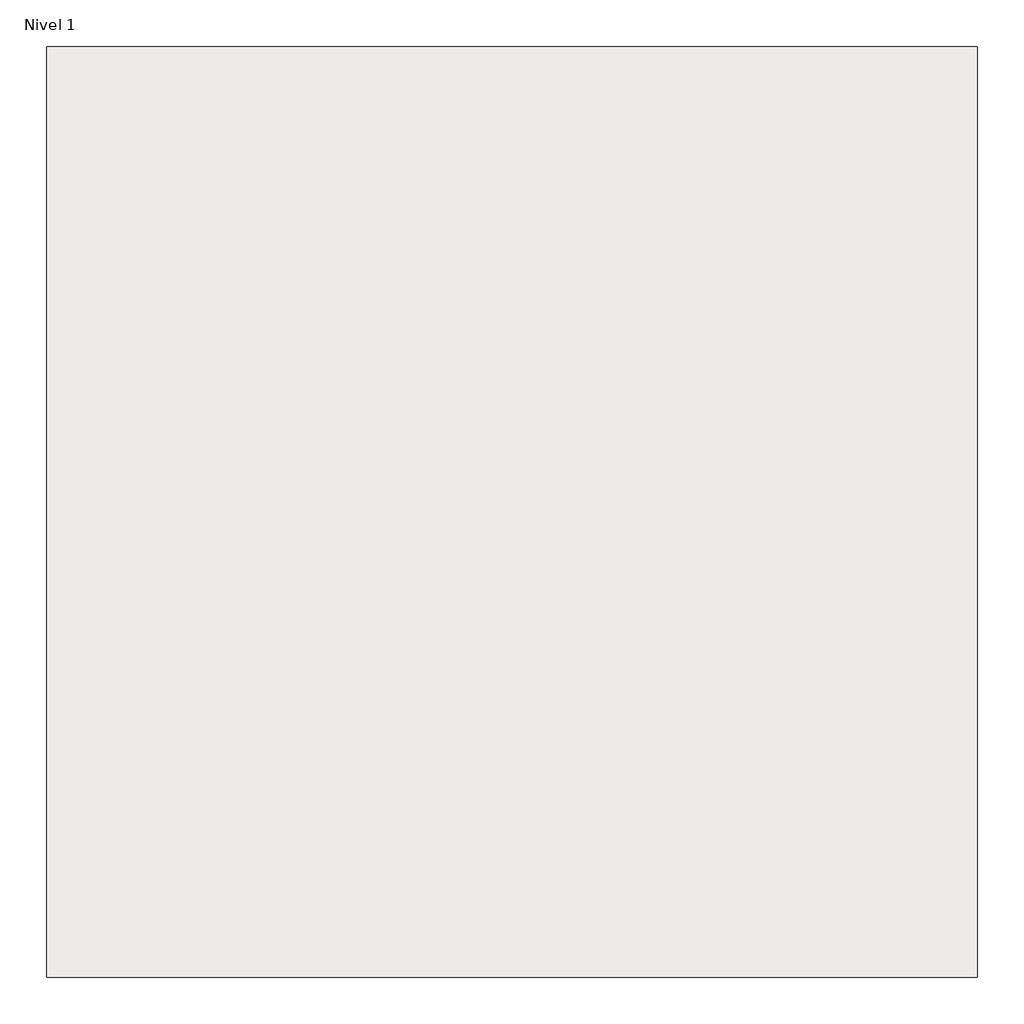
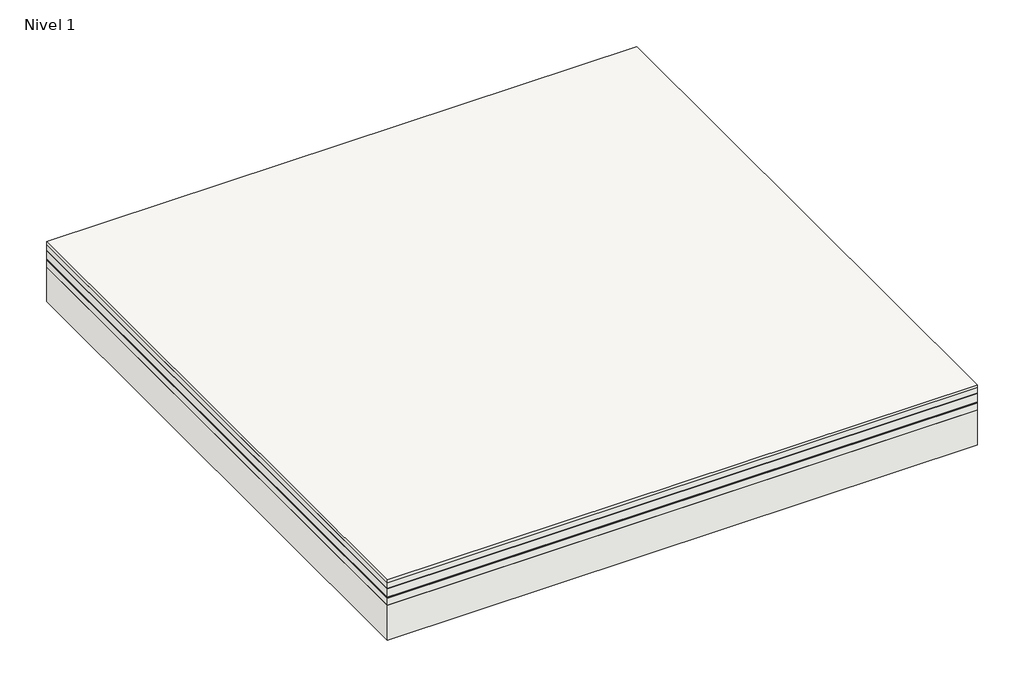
# One storey: 1 roof.
"""IFC4 building model written with IfcOpenShell, lengths in millimetres."""

import ifcopenshell
import ifcopenshell.guid

model = None  # the IFC model being written
_history = None  # IfcOwnerHistory: only IFC2X3 demands one
_inside = {}  # id of a spatial element -> (the spatial element, [elements in it])
_under = {}  # id of a project, library or spatial element -> (it, [spatial elements below it])
_declared = {}  # id of a project -> (the project, [libraries it declares])
_typed = {}  # id of a type object -> (the type object, [elements of that type])
_made_of = {}  # id of a material, layer set ... -> (it, [elements and type objects made of it])


def new_model(schema):
    """Start an empty IFC model of exactly this schema.

    Asked for "IFC4X3", IfcOpenShell would pick the latest addendum, in which some entities
    have other attributes; the version numbers below select the first issue.
    IFC2X3 requires an IfcOwnerHistory on every rooted entity: one is made here for all.
    """
    global model, _history
    if schema == "IFC4X3":
        model = ifcopenshell.file(schema_version=(4, 3, 0, 0))
    else:
        model = ifcopenshell.file(schema=schema)
    _inside.clear()
    _under.clear()
    _declared.clear()
    _typed.clear()
    _made_of.clear()
    _history = None
    if model.schema == "IFC2X3":
        org = make("IfcOrganization", Name="unknown")
        user = make(
            "IfcPersonAndOrganization",
            ThePerson=make("IfcPerson", FamilyName="unknown"),
            TheOrganization=org,
        )
        app = make(
            "IfcApplication",
            ApplicationDeveloper=org,
            Version="unknown",
            ApplicationFullName="unknown",
            ApplicationIdentifier="unknown",
        )
        _history = make(
            "IfcOwnerHistory",
            OwningUser=user,
            OwningApplication=app,
            ChangeAction="ADDED",
            CreationDate=0,
        )
    return model


def make(cls, **values):
    """One entity of the class cls with the attributes given. An attribute that is None is left unset."""
    return model.create_entity(
        cls, **{name: value for name, value in values.items() if value is not None}
    )


def rooted(cls, **values):
    """An entity with a GlobalId (a new one), such as an element, a storey or a relation."""
    return make(cls, GlobalId=ifcopenshell.guid.new(), OwnerHistory=_history, **values)


def si_unit(unit_type, name, prefix=None):
    """IfcSIUnit, for example si_unit("LENGTHUNIT", "METRE", prefix="MILLI")."""
    return make("IfcSIUnit", UnitType=unit_type, Prefix=prefix, Name=name)


def assignment(units):
    """IfcUnitAssignment: the units of a project."""
    return None if units is None else make("IfcUnitAssignment", Units=units)


def point(xyz):
    """IfcCartesianPoint."""
    return None if xyz is None else make("IfcCartesianPoint", Coordinates=xyz)


def direction(xyz):
    """IfcDirection."""
    return None if xyz is None else make("IfcDirection", DirectionRatios=xyz)


def frame(location, z_axis=None, x_axis=None):
    """IfcAxis2Placement3D, a coordinate frame: its origin and axes. An axis left out is left unset."""
    return make(
        "IfcAxis2Placement3D",
        Location=point(location),
        Axis=direction(z_axis),
        RefDirection=direction(x_axis),
    )


def origin():
    """The frame at (0, 0, 0) with its axes left unset."""
    return frame((0.0, 0.0, 0.0))


def origin_with_axes():
    """The frame at (0, 0, 0) with the z axis (0, 0, 1) and the x axis (1, 0, 0) written out."""
    return frame((0.0, 0.0, 0.0), z_axis=(0.0, 0.0, 1.0), x_axis=(1.0, 0.0, 0.0))


def place(relative_to, where):
    """IfcLocalPlacement: puts the frame where relative to a parent placement (None: the world)."""
    return make(
        "IfcLocalPlacement", PlacementRelTo=relative_to, RelativePlacement=where
    )


def context(
    kind, dimensions, precision=None, world=None, true_north=None, identifier=None
):
    """IfcGeometricRepresentationContext, for example the 3D "Model" context."""
    return make(
        "IfcGeometricRepresentationContext",
        ContextIdentifier=identifier,
        ContextType=kind,
        CoordinateSpaceDimension=dimensions,
        Precision=precision,
        WorldCoordinateSystem=world,
        TrueNorth=true_north,
    )


def project(units=None, contexts=None):
    """IfcProject with its units and contexts."""
    return rooted(
        "IfcProject",
        Name="project",
        RepresentationContexts=contexts,
        UnitsInContext=assignment(units),
    )


def spatial(cls, under=None, at=None, **own):
    """A site, building, storey or space (cls), placed at a placement, below another one or the project."""
    s = rooted(cls, ObjectPlacement=at, **own)
    if under is not None:
        _under.setdefault(under.id(), (under, []))[1].append(s)
    return s


def polyline(points):
    """IfcPolyline through the points."""
    return make("IfcPolyline", Points=[point(p) for p in points])


def outline(outer, holes=None, kind="AREA"):
    """IfcArbitraryClosedProfileDef: a profile drawn as a closed curve; with holes, ...WithVoids."""
    if holes is None:
        return make("IfcArbitraryClosedProfileDef", ProfileType=kind, OuterCurve=outer)
    return make(
        "IfcArbitraryProfileDefWithVoids",
        ProfileType=kind,
        OuterCurve=outer,
        InnerCurves=holes,
    )


def extrude(swept, where, along, depth):
    """IfcExtrudedAreaSolid: the profile swept, set in the frame where, extruded along a direction by depth."""
    return make(
        "IfcExtrudedAreaSolid",
        SweptArea=swept,
        Position=where,
        ExtrudedDirection=direction(along),
        Depth=depth,
    )


def shape(context_of_items, identifier, shape_type, items):
    """IfcShapeRepresentation: the items that make up one representation, for example the "Body"."""
    return make(
        "IfcShapeRepresentation",
        ContextOfItems=context_of_items,
        RepresentationIdentifier=identifier,
        RepresentationType=shape_type,
        Items=items,
    )


def made_of(thing, what):
    """Note that an element or type object is made of a material, layer set ...; save() writes the relation."""
    if what is not None:
        _made_of.setdefault(what.id(), (what, []))[1].append(thing)
    return thing


def element(
    cls,
    number,
    at=None,
    inside=None,
    cuts=None,
    type_object=None,
    material=None,
    context=None,
    identifier="Body",
    shape_type=None,
    held_by="IfcProductDefinitionShape",
    body=None,
    shapes=None,
    **own,
):
    """One element of the class cls, such as IfcWall. Its Tag is "e" and its number.

    at: its placement. inside: the storey or other place that contains it. cuts: it is an
    opening in that element (IfcRelVoidsElement). A single representation is given by context,
    identifier, shape_type and body (its items); several are given by shapes. held_by: the class
    of the entity that holds the representations. save() writes the other relations.
    """
    e = rooted(cls, Tag="e%d" % number, ObjectPlacement=at, **own)
    if body is not None:
        shapes = [shape(context, identifier, shape_type, body)]
    if shapes is not None:
        e.Representation = make(held_by, Representations=shapes)
    if inside is not None:
        _inside.setdefault(inside.id(), (inside, []))[1].append(e)
    if cuts is not None:
        rooted(
            "IfcRelVoidsElement", RelatingBuildingElement=cuts, RelatedOpeningElement=e
        )
    if type_object is not None:
        _typed.setdefault(type_object.id(), (type_object, []))[1].append(e)
    return made_of(e, material)


def aggregate(whole, parts):
    """IfcRelAggregates: a whole, such as a stair, and the parts it consists of."""
    return rooted("IfcRelAggregates", RelatingObject=whole, RelatedObjects=parts)


def save(model, path):
    """Write the relations noted so far, then the file.

    IfcRelAggregates (storeys below a building ...), IfcRelContainedInSpatialStructure (elements
    in a storey), IfcRelDefinesByType, IfcRelAssociatesMaterial and IfcRelDeclares: one each for
    every whole, place, type object, material and project.
    """
    for whole, parts in _under.values():
        aggregate(whole, parts)
    for where, things in _inside.values():
        rooted(
            "IfcRelContainedInSpatialStructure",
            RelatedElements=things,
            RelatingStructure=where,
        )
    for kind, things in _typed.values():
        rooted("IfcRelDefinesByType", RelatedObjects=things, RelatingType=kind)
    for what, things in _made_of.values():
        rooted("IfcRelAssociatesMaterial", RelatedObjects=things, RelatingMaterial=what)
    for by, libraries in _declared.values():
        rooted("IfcRelDeclares", RelatingContext=by, RelatedDefinitions=libraries)
    model.write(path)


model = new_model("IFC4")

# Units and contexts
model_context = context("Model", 3, world=origin())
ifc_project = project(units=[si_unit("LENGTHUNIT", "METRE", prefix="MILLI")], contexts=[model_context])

# Site, building, storey
site = spatial("IfcSite", under=ifc_project)
building = spatial("IfcBuilding", under=site)
storey = spatial("IfcBuildingStorey", under=building, Name="Nivel 1", Elevation=0.0)

# Roof
placement = place(None, origin())
element("IfcRoof", 1, ObjectType="CubPlanaInvertidaTrans-PeatonesUsoPrivado_SoladoFijoBaldosa_BITP7", at=placement, inside=storey, context=model_context, shape_type="SweptSolid", body=[
    extrude(outline(polyline([(-2544.9527165, -3086.8428917), (-6544.9527165, -3086.8428917), (-6544.9527165, 913.1571083), (-2544.9527165, 913.1571083), (-2544.9527165, -3086.8428917)])), frame((0.0, 0.0, 410.0), z_axis=(0.0, 0.0, 1.0), x_axis=(1.0, 0.0, 0.0)), (0.0, 0.0, 1.0), 20.0),
    extrude(outline(polyline([(-2544.9527165, -3086.8428917), (-6544.9527165, -3086.8428917), (-6544.9527165, 913.1571083), (-2544.9527165, 913.1571083), (-2544.9527165, -3086.8428917)])), frame((0.0, 0.0, 370.0), z_axis=(0.0, 0.0, 1.0), x_axis=(1.0, 0.0, 0.0)), (0.0, 0.0, 1.0), 40.0),
    extrude(outline(polyline([(-2544.9527165, -3086.8428917), (-6544.9527165, -3086.8428917), (-6544.9527165, 913.1571083), (-2544.9527165, 913.1571083), (-2544.9527165, -3086.8428917)])), frame((0.0, 0.0, 368.0), z_axis=(0.0, 0.0, 1.0), x_axis=(1.0, 0.0, 0.0)), (0.0, 0.0, 1.0), 2.0),
    extrude(outline(polyline([(-2544.9527165, -3086.8428917), (-6544.9527165, -3086.8428917), (-6544.9527165, 913.1571083), (-2544.9527165, 913.1571083), (-2544.9527165, -3086.8428917)])), frame((0.0, 0.0, 308.0), z_axis=(0.0, 0.0, 1.0), x_axis=(1.0, 0.0, 0.0)), (0.0, 0.0, 1.0), 60.0),
    extrude(outline(polyline([(-2544.9527165, -3086.8428917), (-6544.9527165, -3086.8428917), (-6544.9527165, 913.1571083), (-2544.9527165, 913.1571083), (-2544.9527165, -3086.8428917)])), frame((0.0, 0.0, 306.0), z_axis=(0.0, 0.0, 1.0), x_axis=(1.0, 0.0, 0.0)), (0.0, 0.0, 1.0), 2.0),
    extrude(outline(polyline([(-2544.9527165, -3086.8428917), (-6544.9527165, -3086.8428917), (-6544.9527165, 913.1571083), (-2544.9527165, 913.1571083), (-2544.9527165, -3086.8428917)])), frame((0.0, 0.0, 304.0), z_axis=(0.0, 0.0, 1.0), x_axis=(1.0, 0.0, 0.0)), (0.0, 0.0, 1.0), 2.0),
    extrude(outline(polyline([(-2544.9527165, -3086.8428917), (-6544.9527165, -3086.8428917), (-6544.9527165, 913.1571083), (-2544.9527165, 913.1571083), (-2544.9527165, -3086.8428917)])), frame((0.0, 0.0, 302.0), z_axis=(0.0, 0.0, 1.0), x_axis=(1.0, 0.0, 0.0)), (0.0, 0.0, 1.0), 2.0),
    extrude(outline(polyline([(-2544.9527165, -3086.8428917), (-6544.9527165, -3086.8428917), (-6544.9527165, 913.1571083), (-2544.9527165, 913.1571083), (-2544.9527165, -3086.8428917)])), frame((0.0, 0.0, 300.0), z_axis=(0.0, 0.0, 1.0), x_axis=(1.0, 0.0, 0.0)), (0.0, 0.0, 1.0), 2.0),
    extrude(outline(polyline([(-2544.9527165, -3086.8428917), (-6544.9527165, -3086.8428917), (-6544.9527165, 913.1571083), (-2544.9527165, 913.1571083), (-2544.9527165, -3086.8428917)])), frame((0.0, 0.0, 250.0), z_axis=(0.0, 0.0, 1.0), x_axis=(1.0, 0.0, 0.0)), (0.0, 0.0, 1.0), 50.0),
    extrude(outline(polyline([(-2544.9527165, -3086.8428917), (-6544.9527165, -3086.8428917), (-6544.9527165, 913.1571083), (-2544.9527165, 913.1571083), (-2544.9527165, -3086.8428917)])), origin_with_axes(), (0.0, 0.0, 1.0), 250.0),
])

save(model, "model.ifc")
